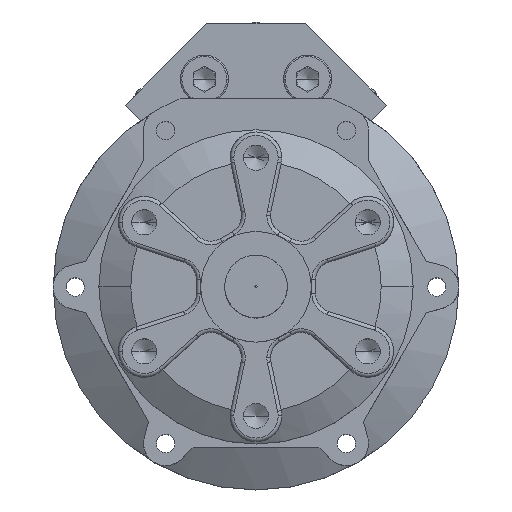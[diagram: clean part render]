
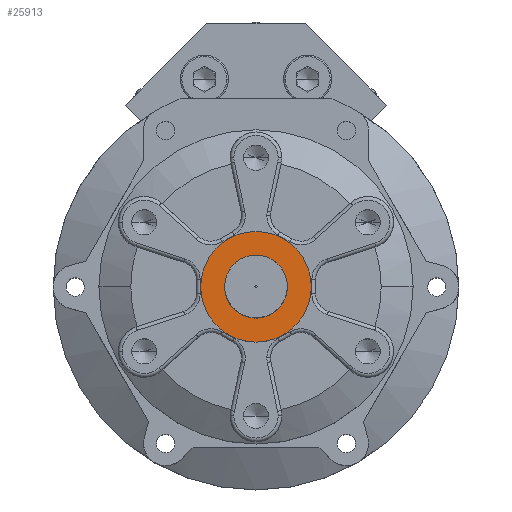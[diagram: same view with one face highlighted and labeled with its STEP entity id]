
A CAD part, top view. The second image highlights one B-rep face of the part: STEP entity #25913.
In plain terms, the highlighted planar face has unit normal (0, 0, 1).
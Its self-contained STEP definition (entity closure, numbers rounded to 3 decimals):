
#47 = CARTESIAN_POINT ( 'NONE',  ( 0., 0., 0. ) ) ;
#692 = FACE_OUTER_BOUND ( 'NONE', #12458, .T. ) ;
#1105 = EDGE_CURVE ( 'NONE', #25741, #8544, #7814, .T. ) ;
#1370 = EDGE_CURVE ( 'NONE', #8544, #25741, #16029, .T. ) ;
#2216 = DIRECTION ( 'NONE',  ( 0., 0., 1. ) ) ;
#2339 = AXIS2_PLACEMENT_3D ( 'NONE', #10041, #12073, #24836 ) ;
#4174 = CARTESIAN_POINT ( 'NONE',  ( 0., 0., 0. ) ) ;
#5552 = VERTEX_POINT ( 'NONE', #13331 ) ;
#6530 = CARTESIAN_POINT ( 'NONE',  ( 0., 0., 0. ) ) ;
#6553 = EDGE_CURVE ( 'NONE', #5552, #12231, #11249, .T. ) ;
#7086 = CARTESIAN_POINT ( 'NONE',  ( 15., 0., 0. ) ) ;
#7639 = ORIENTED_EDGE ( 'NONE', *, *, #6553, .F. ) ;
#7814 = CIRCLE ( 'NONE', #14290, 15. ) ;
#8544 = VERTEX_POINT ( 'NONE', #7086 ) ;
#9997 = AXIS2_PLACEMENT_3D ( 'NONE', #6530, #25139, #12664 ) ;
#10041 = CARTESIAN_POINT ( 'NONE',  ( 0., 8.5, 0. ) ) ;
#10146 = ORIENTED_EDGE ( 'NONE', *, *, #1370, .T. ) ;
#11249 = CIRCLE ( 'NONE', #9997, 8.5 ) ;
#11479 = FACE_BOUND ( 'NONE', #19981, .T. ) ;
#11984 = PLANE ( 'NONE',  #2339 ) ;
#12073 = DIRECTION ( 'NONE',  ( 0., 0., -1. ) ) ;
#12231 = VERTEX_POINT ( 'NONE', #25021 ) ;
#12458 = EDGE_LOOP ( 'NONE', ( #10146, #22988 ) ) ;
#12664 = DIRECTION ( 'NONE',  ( 1., 0., 0. ) ) ;
#13331 = CARTESIAN_POINT ( 'NONE',  ( 8.5, 0., 0. ) ) ;
#13983 = DIRECTION ( 'NONE',  ( 1., 0., 0. ) ) ;
#14290 = AXIS2_PLACEMENT_3D ( 'NONE', #18238, #20297, #13983 ) ;
#16029 = CIRCLE ( 'NONE', #23172, 15. ) ;
#17228 = DIRECTION ( 'NONE',  ( 1., 0., 0. ) ) ;
#18238 = CARTESIAN_POINT ( 'NONE',  ( 0., 0., 0. ) ) ;
#18881 = DIRECTION ( 'NONE',  ( 1., 0., 0. ) ) ;
#19981 = EDGE_LOOP ( 'NONE', ( #7639, #25390 ) ) ;
#20297 = DIRECTION ( 'NONE',  ( 0., 0., 1. ) ) ;
#20467 = CIRCLE ( 'NONE', #24011, 8.5 ) ;
#22988 = ORIENTED_EDGE ( 'NONE', *, *, #1105, .T. ) ;
#23172 = AXIS2_PLACEMENT_3D ( 'NONE', #47, #2216, #17228 ) ;
#24011 = AXIS2_PLACEMENT_3D ( 'NONE', #4174, #27157, #18881 ) ;
#24809 = EDGE_CURVE ( 'NONE', #12231, #5552, #20467, .T. ) ;
#24836 = DIRECTION ( 'NONE',  ( -1., 0., 0. ) ) ;
#25021 = CARTESIAN_POINT ( 'NONE',  ( -8.5, 0., 0. ) ) ;
#25139 = DIRECTION ( 'NONE',  ( 0., 0., 1. ) ) ;
#25390 = ORIENTED_EDGE ( 'NONE', *, *, #24809, .F. ) ;
#25741 = VERTEX_POINT ( 'NONE', #26235 ) ;
#25913 = ADVANCED_FACE ( 'NONE', ( #11479, #692 ), #11984, .F. ) ;
#26235 = CARTESIAN_POINT ( 'NONE',  ( -15., 0., 0. ) ) ;
#27157 = DIRECTION ( 'NONE',  ( 0., 0., 1. ) ) ;
